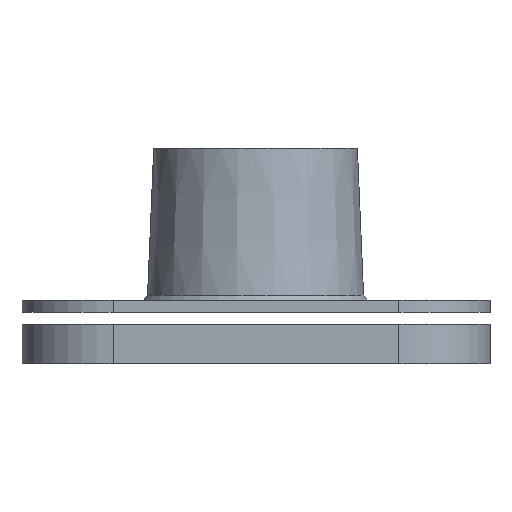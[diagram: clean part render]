
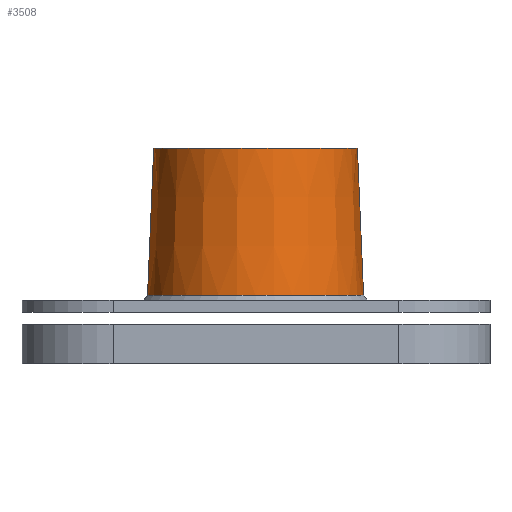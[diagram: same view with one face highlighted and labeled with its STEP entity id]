
A CAD part, front view. The second image highlights one B-rep face of the part: STEP entity #3508.
In plain terms, the highlighted conical face has half-angle 2.403 degrees and reference radius 35.544 mm.
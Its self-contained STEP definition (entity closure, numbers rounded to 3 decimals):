
#131 = CIRCLE ( 'NONE', #487, 33.512 ) ;
#192 = AXIS2_PLACEMENT_3D ( 'NONE', #2586, #3872, #2880 ) ;
#207 = CARTESIAN_POINT ( 'NONE',  ( -119.678, 664.416, -411.89 ) ) ;
#297 = EDGE_CURVE ( 'NONE', #1324, #302, #3382, .T. ) ;
#302 = VERTEX_POINT ( 'NONE', #1296 ) ;
#309 = LINE ( 'NONE', #1674, #767 ) ;
#471 = EDGE_CURVE ( 'NONE', #2848, #302, #3011, .T. ) ;
#487 = AXIS2_PLACEMENT_3D ( 'NONE', #207, #932, #2294 ) ;
#646 = ORIENTED_EDGE ( 'NONE', *, *, #471, .T. ) ;
#660 = VECTOR ( 'NONE', #1003, 1000. ) ;
#767 = VECTOR ( 'NONE', #1315, 1000. ) ;
#932 = DIRECTION ( 'NONE',  ( 0., 0., -1. ) ) ;
#1003 = DIRECTION ( 'NONE',  ( 0.042, 0., -0.999 ) ) ;
#1076 = CARTESIAN_POINT ( 'NONE',  ( -119.678, 664.416, -460.317 ) ) ;
#1296 = CARTESIAN_POINT ( 'NONE',  ( -84.134, 664.416, -460.317 ) ) ;
#1315 = DIRECTION ( 'NONE',  ( -0.042, 0., -0.999 ) ) ;
#1324 = VERTEX_POINT ( 'NONE', #3782 ) ;
#1504 = ORIENTED_EDGE ( 'NONE', *, *, #2368, .T. ) ;
#1637 = CARTESIAN_POINT ( 'NONE',  ( -84.134, 664.416, -460.317 ) ) ;
#1674 = CARTESIAN_POINT ( 'NONE',  ( -155.222, 664.416, -460.317 ) ) ;
#1980 = CONICAL_SURFACE ( 'NONE', #192, 35.544, 0.042 ) ;
#2169 = DIRECTION ( 'NONE',  ( 1., 0., 0. ) ) ;
#2215 = EDGE_CURVE ( 'NONE', #1324, #4178, #131, .T. ) ;
#2294 = DIRECTION ( 'NONE',  ( 1., 0., 0. ) ) ;
#2343 = CARTESIAN_POINT ( 'NONE',  ( -155.222, 664.416, -460.317 ) ) ;
#2368 = EDGE_CURVE ( 'NONE', #4178, #2848, #309, .T. ) ;
#2557 = CARTESIAN_POINT ( 'NONE',  ( -153.19, 664.416, -411.89 ) ) ;
#2586 = CARTESIAN_POINT ( 'NONE',  ( -119.678, 664.416, -460.317 ) ) ;
#2590 = ORIENTED_EDGE ( 'NONE', *, *, #2215, .T. ) ;
#2811 = ORIENTED_EDGE ( 'NONE', *, *, #297, .F. ) ;
#2848 = VERTEX_POINT ( 'NONE', #2343 ) ;
#2880 = DIRECTION ( 'NONE',  ( -1., 0., 0. ) ) ;
#3011 = CIRCLE ( 'NONE', #3858, 35.544 ) ;
#3382 = LINE ( 'NONE', #1637, #660 ) ;
#3508 = ADVANCED_FACE ( 'NONE', ( #4268 ), #1980, .T. ) ;
#3782 = CARTESIAN_POINT ( 'NONE',  ( -86.166, 664.416, -411.89 ) ) ;
#3858 = AXIS2_PLACEMENT_3D ( 'NONE', #1076, #4138, #2169 ) ;
#3872 = DIRECTION ( 'NONE',  ( 0., 0., -1. ) ) ;
#4138 = DIRECTION ( 'NONE',  ( 0., 0., 1. ) ) ;
#4166 = EDGE_LOOP ( 'NONE', ( #2811, #2590, #1504, #646 ) ) ;
#4178 = VERTEX_POINT ( 'NONE', #2557 ) ;
#4268 = FACE_OUTER_BOUND ( 'NONE', #4166, .T. ) ;
